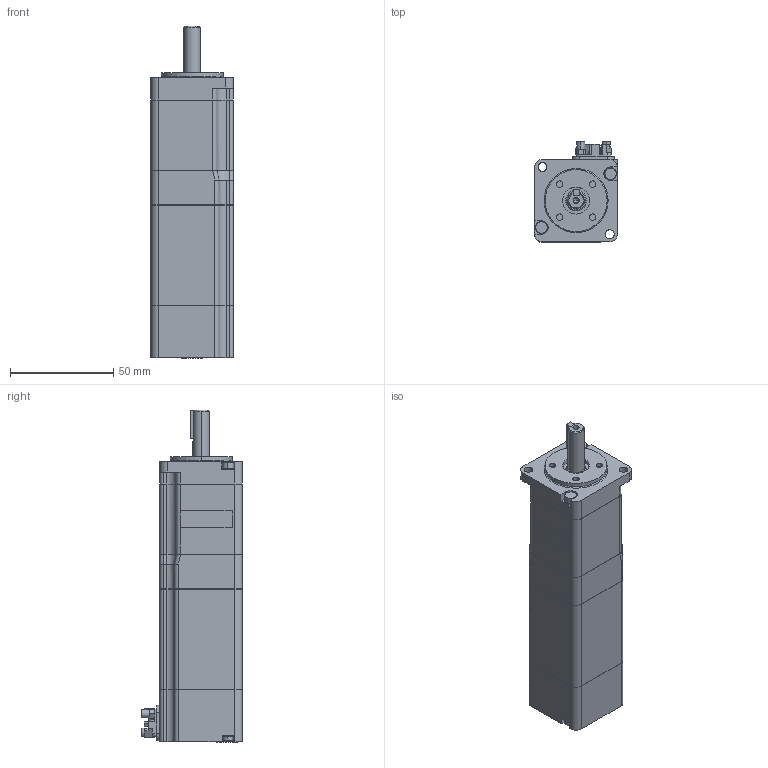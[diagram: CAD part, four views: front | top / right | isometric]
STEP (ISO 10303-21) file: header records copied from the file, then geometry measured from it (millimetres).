
FILE_DESCRIPTION( (''), '2;1');
FILE_NAME ('sgmxa_c2awa6ca_.stp','2024-03-07T11:25:17',(''),(''),'spGate 15.6.6','','');
FILE_SCHEMA (('AUTOMOTIVE_DESIGN'));
Length unit declared in the file: millimetre
Products named in the file (3): Assembly; sgmxa_c2awa6ca_-prt0; sgmxa_c2awa6ca_-prt1
Assembly tree (2 placements, depth 2):
  Assembly
    sgmxa_c2awa6ca_-prt0
    sgmxa_c2awa6ca_-prt1
Bounding box: 40.1 x 48.8 x 160.6 mm (x, y, z)
Volume: 205477.2 mm3; surface area: 27675 mm2
Topology: 2 solids, 2 shells, 377 faces, 990 edges, 654 vertices
Faces by surface type: plane 222, cylinder 140, bspline 15
Entity records: 19853 total; most frequent: CARTESIAN_POINT 2570, ORIENTED_EDGE 1976, DIRECTION 1902, COLOUR_RGB 1367, PRESENTATION_STYLE_ASSIGNMENT 1367, STYLED_ITEM 1367, EDGE_CURVE 988, DRAUGHTING_PRE_DEFINED_CURVE_FONT 988
